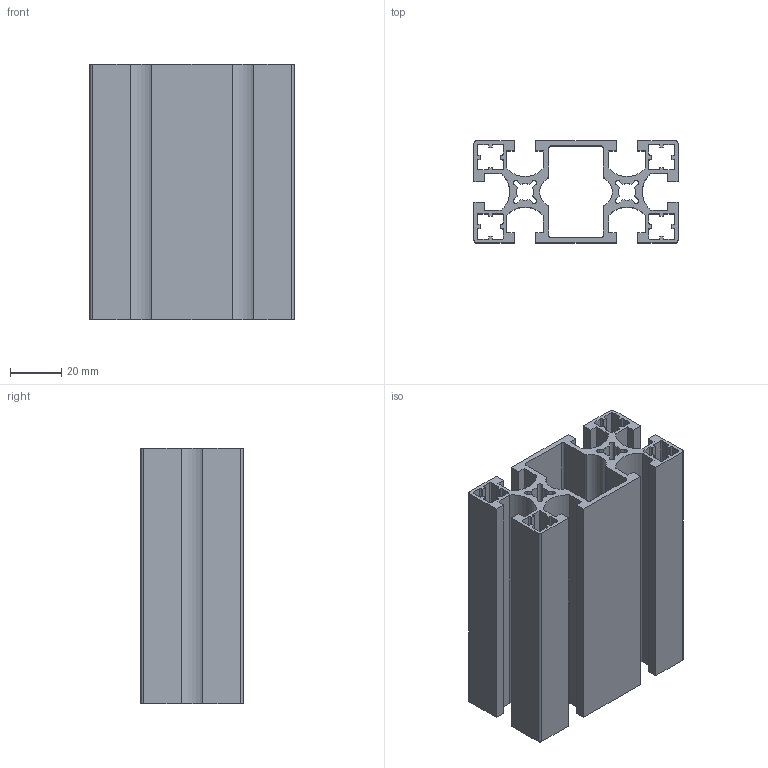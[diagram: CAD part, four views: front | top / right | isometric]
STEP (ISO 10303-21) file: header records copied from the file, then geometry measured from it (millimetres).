
FILE_DESCRIPTION (( 'STEP AP203' ), '1' );
FILE_NAME ('WS4080M-8.STEP', '2024-02-19T05:06:59', ( '' ), ( '' ), 'SwSTEP 2.0', 'SolidWorks 2022', '' );
FILE_SCHEMA (( 'CONFIG_CONTROL_DESIGN' ));
Length unit declared in the file: millimetre
Products named in the file (1): WS4080M-8
Bounding box: 80 x 40 x 100 mm (x, y, z)
Volume: 89387 mm3; surface area: 85591.2 mm2
Topology: 1 solids, 1 shells, 250 faces, 744 edges, 496 vertices
Faces by surface type: plane 138, cylinder 112
Entity records: 8537 total; most frequent: CARTESIAN_POINT 1491, ORIENTED_EDGE 1488, DIRECTION 1470, EDGE_CURVE 744, LINE 520, VECTOR 520, VERTEX_POINT 496, AXIS2_PLACEMENT_3D 475
